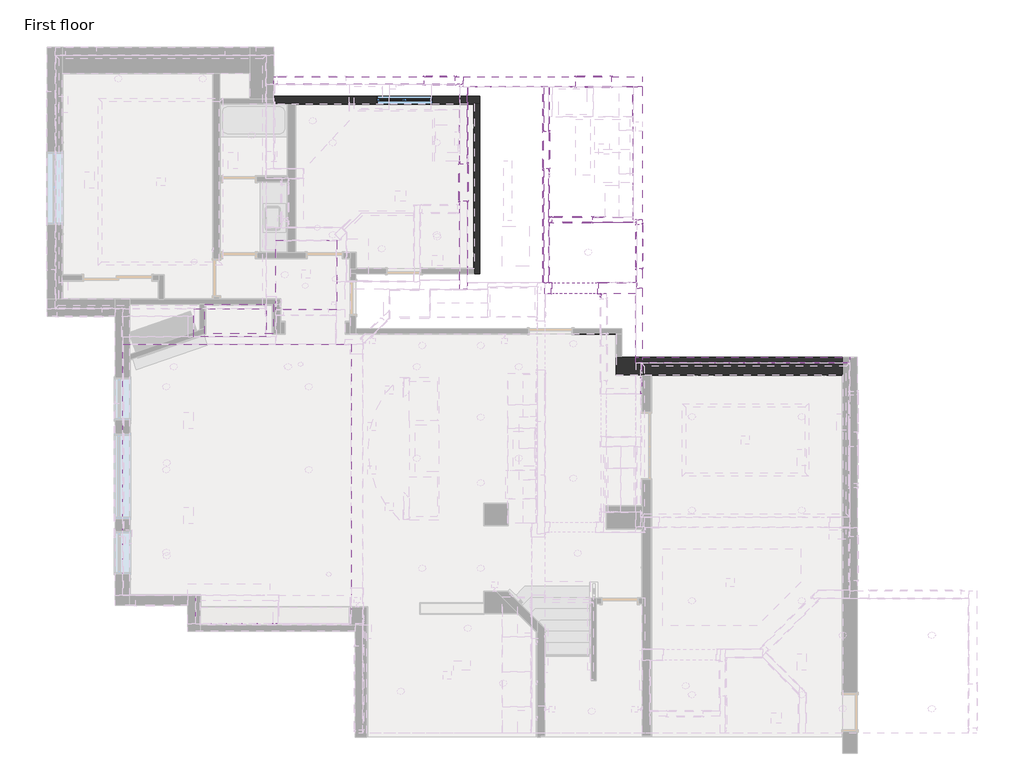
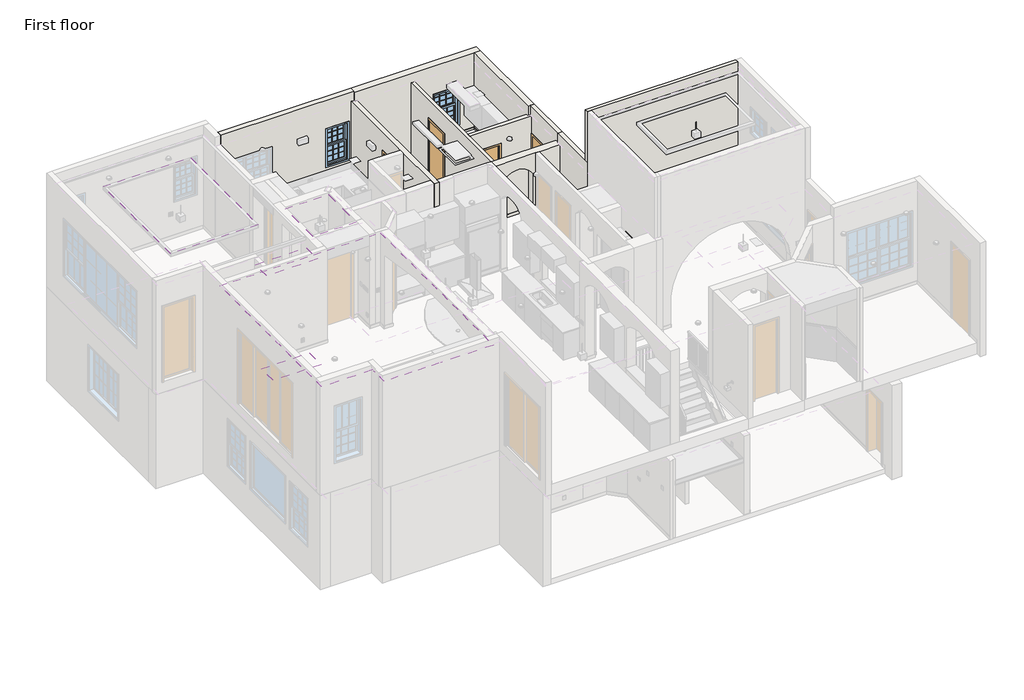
# One storey, part 7 of 14: 41 walls, 5 coverings, 4 doors, 3 windows.
"""IFC4 building model written with IfcOpenShell, lengths in millimetres."""

from ifc_helpers import new_model, si_unit, frame, origin, origin_with_axes, place, context, project, spatial, polyline, circle_curve, outline, extrude, faceted_brep, transform, mapped, element, save
from ifc_brep_helpers import plane_surface, revolved_surface, advanced_brep
from components import door_1276751d, door_c4ebe795, door_87e8dd14, door_a6e0097c, window_c90586ce, window_4b939d1e, window_50703a3a

model = new_model("IFC4")

# Units and contexts
model_context = context("Model", 3, world=origin())
ifc_project = project(units=[si_unit("LENGTHUNIT", "METRE", prefix="MILLI")], contexts=[model_context])

# Site, building, storey
site = spatial("IfcSite", under=ifc_project)
building = spatial("IfcBuilding", under=site)
storey = spatial("IfcBuildingStorey", under=building, Name="First floor", Elevation=0.0)

# Coverings
placement = place(None, origin())
element("IfcCovering", 1, ObjectType="Ceiling_1.5\"", at=placement, inside=storey, context=model_context, shape_type="AdvancedBrep", body=[
    advanced_brep(
    [(-88.9, 8851.9, 6299.2), (-406.4, 8851.9, 6299.2), (-1720.85, 8851.9, 6299.2), (-5029.2, 8851.9, 6299.2), (-5029.2, 3416.3, 6299.2), (-3454.4, 3416.3, 6299.2), (-3454.4, 2806.7, 6299.2), (-88.9, 2806.7, 6299.2), (-4089.4, 8001.5669477, 6299.2), (-4089.4, 7874.5669477, 6299.2), (-4089.4, 6203.5539638, 6299.2), (-4089.4, 6076.5539638, 6299.2), (-4089.4, 4419.6, 6299.2), (-4089.4, 4292.6, 6299.2), (-1001.2559661, 6202.9838752, 6299.2), (-1001.2559661, 6075.9838752, 6299.2), (-1001.2559661, 8001.5669477, 6299.2), (-1001.2559661, 7874.5669477, 6299.2), (-5029.2, 3416.3, 6261.1), (-5029.2, 8851.9, 6261.1), (-88.9, 8851.9, 6261.1), (-88.9, 2806.7, 6261.1), (-1663.7, 2806.7, 6261.1), (-1778.0, 2806.7, 6261.1), (-3454.4, 2806.7, 6261.1), (-3454.4, 3302.0, 6261.1), (-3454.4, 3416.3, 6261.1), (-4089.4, 7874.5669477, 6261.1), (-4089.4, 8001.5669477, 6261.1), (-4089.4, 6076.5539638, 6261.1), (-4089.4, 6203.5539638, 6261.1), (-4089.4, 4292.6, 6261.1), (-4089.4, 4419.6, 6261.1), (-1001.2559661, 6075.9838752, 6261.1), (-1001.2559661, 6202.9838752, 6261.1), (-1001.2559661, 7874.5669477, 6261.1), (-1001.2559661, 8001.5669477, 6261.1)],
    [
        (0, 1),
        (1, 2),
        (2, 3),
        (3, 4),
        (4, 5),
        (5, 6),
        (6, 7),
        (7, 0),
        (8, 9, circle_curve(frame((-4089.4, 7938.0669477, 6299.2), z_axis=(0.0, 0.0, -1.0), x_axis=(0.0, -1.0, 0.0)), 63.5)),
        (9, 8, circle_curve(frame((-4089.4, 7938.0669477, 6299.2), z_axis=(0.0, 0.0, -1.0), x_axis=(0.0, -1.0, 0.0)), 63.5)),
        (10, 11, circle_curve(frame((-4089.4, 6140.0539638, 6299.2), z_axis=(0.0, 0.0, -1.0), x_axis=(0.0, -1.0, 0.0)), 63.5)),
        (11, 10, circle_curve(frame((-4089.4, 6140.0539638, 6299.2), z_axis=(0.0, 0.0, -1.0), x_axis=(0.0, -1.0, 0.0)), 63.5)),
        (12, 13, circle_curve(frame((-4089.4, 4356.1, 6299.2), z_axis=(0.0, 0.0, -1.0), x_axis=(0.0, -1.0, 0.0)), 63.5)),
        (13, 12, circle_curve(frame((-4089.4, 4356.1, 6299.2), z_axis=(0.0, 0.0, -1.0), x_axis=(0.0, -1.0, 0.0)), 63.5)),
        (14, 15, circle_curve(frame((-1001.2559661, 6139.4838752, 6299.2), z_axis=(0.0, 0.0, -1.0), x_axis=(0.0, -1.0, 0.0)), 63.5)),
        (15, 14, circle_curve(frame((-1001.2559661, 6139.4838752, 6299.2), z_axis=(0.0, 0.0, -1.0), x_axis=(0.0, -1.0, 0.0)), 63.5)),
        (16, 17, circle_curve(frame((-1001.2559661, 7938.0669477, 6299.2), z_axis=(0.0, 0.0, -1.0), x_axis=(0.0, -1.0, 0.0)), 63.5)),
        (17, 16, circle_curve(frame((-1001.2559661, 7938.0669477, 6299.2), z_axis=(0.0, 0.0, -1.0), x_axis=(0.0, -1.0, 0.0)), 63.5)),
        (18, 19),
        (19, 20),
        (20, 21),
        (21, 22),
        (22, 23),
        (23, 24),
        (24, 25),
        (25, 26),
        (26, 18),
        (27, 28, circle_curve(frame((-4089.4, 7938.0669477, 6261.1), z_axis=(0.0, 0.0, 1.0), x_axis=(0.0, -1.0, 0.0)), 63.5)),
        (28, 27, circle_curve(frame((-4089.4, 7938.0669477, 6261.1), z_axis=(0.0, 0.0, 1.0), x_axis=(0.0, -1.0, 0.0)), 63.5)),
        (29, 30, circle_curve(frame((-4089.4, 6140.0539638, 6261.1), z_axis=(0.0, 0.0, 1.0), x_axis=(0.0, -1.0, 0.0)), 63.5)),
        (30, 29, circle_curve(frame((-4089.4, 6140.0539638, 6261.1), z_axis=(0.0, 0.0, 1.0), x_axis=(0.0, -1.0, 0.0)), 63.5)),
        (31, 32, circle_curve(frame((-4089.4, 4356.1, 6261.1), z_axis=(0.0, 0.0, 1.0), x_axis=(0.0, -1.0, 0.0)), 63.5)),
        (32, 31, circle_curve(frame((-4089.4, 4356.1, 6261.1), z_axis=(0.0, 0.0, 1.0), x_axis=(0.0, -1.0, 0.0)), 63.5)),
        (33, 34, circle_curve(frame((-1001.2559661, 6139.4838752, 6261.1), z_axis=(0.0, 0.0, 1.0), x_axis=(0.0, -1.0, 0.0)), 63.5)),
        (34, 33, circle_curve(frame((-1001.2559661, 6139.4838752, 6261.1), z_axis=(0.0, 0.0, 1.0), x_axis=(0.0, -1.0, 0.0)), 63.5)),
        (35, 36, circle_curve(frame((-1001.2559661, 7938.0669477, 6261.1), z_axis=(0.0, 0.0, 1.0), x_axis=(0.0, -1.0, 0.0)), 63.5)),
        (36, 35, circle_curve(frame((-1001.2559661, 7938.0669477, 6261.1), z_axis=(0.0, 0.0, 1.0), x_axis=(0.0, -1.0, 0.0)), 63.5)),
        (3, 19),
        (18, 4),
        (26, 5),
        (24, 6),
        (21, 7),
        (20, 0),
        (27, 9),
        (8, 28),
        (29, 11),
        (10, 30),
        (31, 13),
        (12, 32),
        (33, 15),
        (14, 34),
        (35, 17),
        (16, 36),
    ],
    [
        plane_surface(frame((-3454.4, 3416.3, 6299.2), z_axis=(0.0, 0.0, 1.0), x_axis=(1.0, 0.0, 0.0))),
        plane_surface(frame((-3454.4, 3416.3, 6261.1), z_axis=(0.0, 0.0, -1.0), x_axis=(-1.0, 0.0, 0.0))),
        plane_surface(frame((-5029.2, 8851.9, 6299.2), z_axis=(-1.0, 0.0, 0.0), x_axis=(0.0, 0.0, -1.0))),
        plane_surface(frame((-5029.2, 3416.3, 6299.2), z_axis=(0.0, -1.0, 0.0), x_axis=(0.0, 0.0, -1.0))),
        plane_surface(frame((-3454.4, 3416.3, 6299.2), z_axis=(-1.0, 0.0, 0.0), x_axis=(0.0, 0.0, -1.0))),
        plane_surface(frame((-3454.4, 2806.7, 6299.2), z_axis=(0.0, -1.0, 0.0), x_axis=(0.0, 0.0, -1.0))),
        plane_surface(frame((-88.9, 2806.7, 6299.2), z_axis=(1.0, 0.0, 0.0), x_axis=(0.0, 0.0, -1.0))),
        plane_surface(frame((-88.9, 8851.9, 6299.2), z_axis=(0.0, 1.0, 0.0), x_axis=(0.0, 0.0, -1.0))),
        revolved_surface(polyline([(-4089.4, 7874.5669477, 6261.1), (-4089.4, 7874.5669477, 6299.2)]), (-4089.4, 7938.0669477, 6299.2), (0.0, 0.0, -1.0)),
        revolved_surface(polyline([(-4089.4, 6076.5539638, 6261.1), (-4089.4, 6076.5539638, 6299.2)]), (-4089.4, 6140.0539638, 6299.2), (0.0, 0.0, -1.0)),
        revolved_surface(polyline([(-4089.4, 4292.6, 6261.1), (-4089.4, 4292.6, 6299.2)]), (-4089.4, 4356.1, 6299.2), (0.0, 0.0, -1.0)),
        revolved_surface(polyline([(-1001.2559661, 6075.9838752, 6261.1), (-1001.2559661, 6075.9838752, 6299.2)]), (-1001.2559661, 6139.4838752, 6299.2), (0.0, 0.0, -1.0)),
        revolved_surface(polyline([(-1001.2559661, 7874.5669477, 6261.1), (-1001.2559661, 7874.5669477, 6299.2)]), (-1001.2559661, 7938.0669477, 6299.2), (0.0, 0.0, -1.0)),
    ],
    [
        (0, [[1, 2, 3, 4, 5, 6, 7, 8], [9, 10], [11, 12], [13, 14], [15, 16], [17, 18]]),
        (1, [[19, 20, 21, 22, 23, 24, 25, 26, 27], [28, 29], [30, 31], [32, 33], [34, 35], [36, 37]]),
        (2, [[-4, 38, -19, 39]]),
        (3, [[-5, -39, -27, 40]]),
        (4, [[-6, -40, -26, -25, 41]]),
        (5, [[-7, -41, -24, -23, -22, 42]]),
        (6, [[-8, -42, -21, 43]]),
        (7, [[-43, -20, -38, -3, -2, -1]]),
        (8, [[44, -9, 45, -28]]),
        (8, [[-44, -29, -45, -10]]),
        (9, [[46, -11, 47, -30]]),
        (9, [[-46, -31, -47, -12]]),
        (10, [[48, -13, 49, -32]]),
        (10, [[-48, -33, -49, -14]]),
        (11, [[50, -15, 51, -34]]),
        (11, [[-50, -35, -51, -16]]),
        (12, [[52, -17, 53, -36]]),
        (12, [[-52, -37, -53, -18]]),
    ],
),
])
element("IfcCovering", 2, ObjectType="Ceiling_14\"", at=placement, inside=storey, context=model_context, shape_type="SweptSolid", body=[
    extrude(outline(polyline([(-1924.05, 9626.6), (-1924.05, 9017.0), (-3498.85, 9017.0), (-3498.85, 9626.6), (-1924.05, 9626.6)])), frame((0.0, 0.0, 5943.6), z_axis=(0.0, 0.0, 1.0), x_axis=(1.0, 0.0, 0.0)), (0.0, 0.0, 1.0), 355.6),
])
element("IfcCovering", 3, ObjectType="Ceiling_2\"", at=placement, inside=storey, context=model_context, shape_type="SweptSolid", body=[
    extrude(outline(polyline([(-393.7, 11099.8), (-393.7, 9601.2), (-1720.85, 9601.2), (-1720.85, 11099.8), (-393.7, 11099.8)])), frame((0.0, 0.0, 6248.4), z_axis=(0.0, 0.0, 1.0), x_axis=(1.0, 0.0, 0.0)), (0.0, 0.0, 1.0), 50.8),
])
element("IfcCovering", 4, ObjectType="Ceiling_6\"", at=placement, inside=storey, context=model_context, shape_type="SweptSolid", body=[
    extrude(outline(polyline([(-3251.2, 9715.5), (-1778.0, 9715.5), (-1778.0, 9080.5), (-3251.2, 9080.5), (-3251.2, 9715.5)])), frame((0.0, 0.0, 2413.0), z_axis=(0.0, 0.0, 1.0), x_axis=(1.0, 0.0, 0.0)), (0.0, 0.0, 1.0), 152.4),
])
element("IfcCovering", 5, ObjectType="Ceiling_6\"", at=placement, inside=storey, context=model_context, shape_type="SweptSolid", body=[
    extrude(outline(polyline([(-2863.85, 14173.2), (-2863.85, 10566.4), (-5556.25, 10566.4), (-5556.25, 14173.2), (-2863.85, 14173.2)])), frame((0.0, 0.0, 6451.6), z_axis=(0.0, 0.0, 1.0), x_axis=(1.0, 0.0, 0.0)), (0.0, 0.0, 1.0), 152.4),
])

# Doors
door_shape = door_1276751d(model_context)
element("IfcDoor", 6, ObjectType="C_Single Door : 2'-6\" X 8'-0\"", at=placement, inside=storey, context=model_context, shape_type="MappedRepresentation", body=[
    mapped(door_shape, transform((4133.85, 13055.4947939, 3251.2), x_axis=(0.0, -1.0, 0.0), y_axis=(1.0, 0.0, 0.0), z_axis=(0.0, 0.0, 1.0))),
])
door_2_shape = door_c4ebe795(model_context)
element("IfcDoor", 7, ObjectType="C_Single Door : 2'-6\" X 8'-0\"", at=placement, inside=storey, context=model_context, shape_type="MappedRepresentation", body=[
    mapped(door_2_shape, transform((2343.15, 12356.9947939, 3251.2), x_axis=(0.0, 1.0, 0.0), y_axis=(-1.0, 0.0, 0.0), z_axis=(0.0, 0.0, 1.0))),
])
door_3_shape = door_87e8dd14(model_context)
element("IfcDoor", 8, ObjectType="C_Single Door : 2'-8\" X 8'-0\"", at=placement, inside=storey, context=model_context, shape_type="MappedRepresentation", body=[
    mapped(door_3_shape, transform((4699.0, 11550.5447939, 3251.2), x_axis=(1.0, 0.0, 0.0), y_axis=(0.0, 1.0, 0.0), z_axis=(0.0, 0.0, 1.0))),
])
door_4_shape = door_a6e0097c(model_context)
element("IfcDoor", 9, ObjectType="C_Single Door : 3'-0\" X 8'-0\"", at=placement, inside=storey, context=model_context, shape_type="MappedRepresentation", body=[
    mapped(door_4_shape, transform((6153.15, 10972.6947939, 3251.2), x_axis=(0.0, -1.0, 0.0), y_axis=(1.0, 0.0, 0.0), z_axis=(0.0, 0.0, 1.0))),
])

# Walls
element("IfcWall", 10, ObjectType="Wall Border_T1", at=placement, inside=storey, context=model_context, shape_type="Brep", body=[
    faceted_brep([(6400.8, 8178.8, 0.0), (6413.5, 8178.8, 0.0), (10541.0, 8178.8, 0.0), (10553.7, 8178.8, 0.0), (10553.7, 8178.8, 101.6), (10541.0, 8178.8, 101.6), (6413.5, 8178.8, 101.6), (6400.8, 8178.8, 101.6), (6400.8, 8191.5, 0.0), (6400.8, 8191.5, 101.6), (10553.7, 8191.5, 101.6), (10553.7, 8191.5, 0.0)], [[[0, 1, 2, 3, 4, 5, 6, 7]], [[8, 9, 10, 11]], [[3, 2, 1, 0, 8, 11]], [[7, 6, 5, 4, 10, 9]], [[4, 3, 11, 10]], [[0, 7, 9, 8]]]),
])
element("IfcWall", 11, ObjectType="Wall Border_T1", at=placement, inside=storey, context=model_context, shape_type="SweptSolid", body=[
    extrude(outline(polyline([(5638.8, 9067.8), (4737.1, 9067.8), (4737.1, 9080.5), (5638.8, 9080.5), (5638.8, 9067.8)])), origin_with_axes(), (0.0, 0.0, 1.0), 101.6),
])
element("IfcWall", 12, ObjectType="Wall Border_T1", at=placement, inside=storey, context=model_context, shape_type="Brep", body=[
    faceted_brep([(2578.1, 14046.2, 0.0), (2578.1, 14046.2, 101.6), (2565.4, 14046.2, 101.6), (-1282.7, 14046.2, 101.6), (-1282.7, 14046.2, 0.0), (2565.4, 14046.2, 0.0), (2578.1, 14058.9, 101.6), (2578.1, 14058.9, 0.0), (-1282.7, 14058.9, 0.0), (-1282.7, 14058.9, 101.6)], [[[0, 1, 2, 3, 4, 5]], [[6, 7, 8, 9]], [[7, 0, 5, 4, 8]], [[1, 0, 7, 6]], [[1, 6, 9, 3, 2]], [[4, 3, 9, 8]]]),
])
element("IfcWall", 13, ObjectType="Wall Border_T1", at=placement, inside=storey, context=model_context, shape_type="SweptSolid", body=[
    extrude(outline(polyline([(2578.1, 10502.9), (2565.4, 10502.9), (2565.4, 14046.2), (2578.1, 14046.2), (2578.1, 10502.9)])), origin_with_axes(), (0.0, 0.0, 1.0), 101.6),
])
element("IfcWall", 14, ObjectType="Wall Border_T1", at=placement, inside=storey, context=model_context, shape_type="Brep", body=[
    faceted_brep([(6083.3, 10464.6947939, 3251.2), (6083.3, 10197.9947939, 3251.2), (6083.3, 10185.2947939, 3251.2), (6083.3, 10185.2947939, 3352.8), (6083.3, 10197.9947939, 3352.8), (6083.3, 10464.6947939, 3352.8), (6096.0, 10464.6947939, 3251.2), (6096.0, 10464.6947939, 3352.8), (6096.0, 10185.2947939, 3352.8), (6096.0, 10185.2947939, 3251.2)], [[[0, 1, 2, 3, 4, 5]], [[6, 7, 8, 9]], [[2, 1, 0, 6, 9]], [[5, 4, 3, 8, 7]], [[0, 5, 7, 6]], [[3, 2, 9, 8]]]),
])
element("IfcWall", 15, ObjectType="Wall Border_T1", at=placement, inside=storey, context=model_context, shape_type="Brep", body=[
    faceted_brep([(6083.3, 10197.9947939, 3251.2), (5245.1, 10197.9947939, 3251.2), (5245.1, 10197.9947939, 3352.8), (6083.3, 10197.9947939, 3352.8), (6083.3, 10185.2947939, 3251.2), (6083.3, 10185.2947939, 3352.8), (5257.8, 10185.2947939, 3352.8), (5245.1, 10185.2947939, 3352.8), (5245.1, 10185.2947939, 3251.2), (5257.8, 10185.2947939, 3251.2)], [[[0, 1, 2, 3]], [[4, 5, 6, 7, 8, 9]], [[1, 0, 4, 9, 8]], [[3, 2, 7, 6, 5]], [[0, 3, 5, 4]], [[2, 1, 8, 7]]]),
])
element("IfcWall", 16, ObjectType="Wall Border_T1", at=placement, inside=storey, context=model_context, shape_type="Brep", body=[
    faceted_brep([(5245.1, 10185.2947939, 3251.2), (5245.1, 9931.2947939, 3251.2), (5245.1, 9931.2947939, 3352.8), (5245.1, 10185.2947939, 3352.8), (5257.8, 10185.2947939, 3251.2), (5257.8, 10185.2947939, 3352.8), (5257.8, 9943.9947939, 3352.8), (5257.8, 9931.2947939, 3352.8), (5257.8, 9931.2947939, 3251.2), (5257.8, 9943.9947939, 3251.2)], [[[0, 1, 2, 3]], [[4, 5, 6, 7, 8, 9]], [[1, 0, 4, 9, 8]], [[3, 2, 7, 6, 5]], [[0, 3, 5, 4]], [[2, 1, 8, 7]]]),
])
element("IfcWall", 17, ObjectType="Wall Border_T1", at=placement, inside=storey, context=model_context, shape_type="Brep", body=[
    faceted_brep([(5257.8, 9931.2947939, 3251.2), (5308.6, 9931.2947939, 3251.2), (5321.3, 9931.2947939, 3251.2), (5321.3, 9931.2947939, 3352.8), (5308.6, 9931.2947939, 3352.8), (5257.8, 9931.2947939, 3352.8), (5257.8, 9943.9947939, 3251.2), (5257.8, 9943.9947939, 3352.8), (5321.3, 9943.9947939, 3352.8), (5321.3, 9943.9947939, 3251.2)], [[[0, 1, 2, 3, 4, 5]], [[6, 7, 8, 9]], [[2, 1, 0, 6, 9]], [[5, 4, 3, 8, 7]], [[0, 5, 7, 6]], [[3, 2, 9, 8]]]),
])
element("IfcWall", 18, ObjectType="Wall Border_T1", at=placement, inside=storey, context=model_context, shape_type="SweptSolid", body=[
    extrude(outline(polyline([(5308.6, 9867.7947939), (5308.6, 9931.2947939), (5321.3, 9931.2947939), (5321.3, 9867.7947939), (5308.6, 9867.7947939)])), frame((0.0, 0.0, 3251.2), z_axis=(0.0, 0.0, 1.0), x_axis=(1.0, 0.0, 0.0)), (0.0, 0.0, 1.0), 101.6),
])
element("IfcWall", 19, ObjectType="Wall Border_T1", at=placement, inside=storey, context=model_context, shape_type="Brep", body=[
    faceted_brep([(4241.8, 11493.3947939, 3251.2), (4191.0, 11493.3947939, 3251.2), (4191.0, 11493.3947939, 3352.8), (4241.8, 11493.3947939, 3352.8), (4241.8, 11480.6947939, 3251.2), (4241.8, 11480.6947939, 3352.8), (4203.7, 11480.6947939, 3352.8), (4191.0, 11480.6947939, 3352.8), (4191.0, 11480.6947939, 3251.2), (4203.7, 11480.6947939, 3251.2)], [[[0, 1, 2, 3]], [[4, 5, 6, 7, 8, 9]], [[1, 0, 4, 9, 8]], [[3, 2, 7, 6, 5]], [[0, 3, 5, 4]], [[2, 1, 8, 7]]]),
])
element("IfcWall", 20, ObjectType="Wall Border_T1", at=placement, inside=storey, context=model_context, shape_type="Brep", body=[
    faceted_brep([(4191.0, 11480.6947939, 3251.2), (4191.0, 10185.2947939, 3251.2), (4191.0, 10185.2947939, 3352.8), (4191.0, 11480.6947939, 3352.8), (4203.7, 11480.6947939, 3251.2), (4203.7, 11480.6947939, 3352.8), (4203.7, 10197.9947939, 3352.8), (4203.7, 10185.2947939, 3352.8), (4203.7, 10185.2947939, 3251.2), (4203.7, 10197.9947939, 3251.2)], [[[0, 1, 2, 3]], [[4, 5, 6, 7, 8, 9]], [[1, 0, 4, 9, 8]], [[3, 2, 7, 6, 5]], [[0, 3, 5, 4]], [[2, 1, 8, 7]]]),
])
element("IfcWall", 21, ObjectType="Wall Border_T1", at=placement, inside=storey, context=model_context, shape_type="Brep", body=[
    faceted_brep([(4203.7, 10185.2947939, 3251.2), (4241.8, 10185.2947939, 3251.2), (4254.5, 10185.2947939, 3251.2), (4254.5, 10185.2947939, 3352.8), (4241.8, 10185.2947939, 3352.8), (4203.7, 10185.2947939, 3352.8), (4203.7, 10197.9947939, 3251.2), (4203.7, 10197.9947939, 3352.8), (4254.5, 10197.9947939, 3352.8), (4254.5, 10197.9947939, 3251.2)], [[[0, 1, 2, 3, 4, 5]], [[6, 7, 8, 9]], [[2, 1, 0, 6, 9]], [[5, 4, 3, 8, 7]], [[0, 5, 7, 6]], [[3, 2, 9, 8]]]),
])
element("IfcWall", 22, ObjectType="Wall Border_T1", at=placement, inside=storey, context=model_context, shape_type="Brep", body=[
    faceted_brep([(4241.8, 10185.2947939, 3251.2), (4241.8, 9943.9947939, 3251.2), (4241.8, 9931.2947939, 3251.2), (4241.8, 9931.2947939, 3352.8), (4241.8, 9943.9947939, 3352.8), (4241.8, 10185.2947939, 3352.8), (4254.5, 10185.2947939, 3251.2), (4254.5, 10185.2947939, 3352.8), (4254.5, 9931.2947939, 3352.8), (4254.5, 9931.2947939, 3251.2)], [[[0, 1, 2, 3, 4, 5]], [[6, 7, 8, 9]], [[2, 1, 0, 6, 9]], [[5, 4, 3, 8, 7]], [[0, 5, 7, 6]], [[3, 2, 9, 8]]]),
])
element("IfcWall", 23, ObjectType="Wall Border_T1", at=placement, inside=storey, context=model_context, shape_type="SweptSolid", body=[
    extrude(outline(polyline([(2260.6, 12814.1947939), (2260.6, 12788.7947939), (2247.9, 12788.7947939), (2247.9, 12814.1947939), (2260.6, 12814.1947939)])), frame((0.0, 0.0, 3251.2), z_axis=(0.0, 0.0, 1.0), x_axis=(1.0, 0.0, 0.0)), (0.0, 0.0, 1.0), 101.6),
])
element("IfcWall", 24, ObjectType="Wall Border_T1", at=placement, inside=storey, context=model_context, shape_type="SweptSolid", body=[
    extrude(outline(polyline([(4076.7, 12623.6947939), (4076.7, 10198.1), (4064.0, 10198.1), (4064.0, 12623.6947939), (4076.7, 12623.6947939)])), frame((0.0, 0.0, 3251.2), z_axis=(0.0, 0.0, 1.0), x_axis=(1.0, 0.0, 0.0)), (0.0, 0.0, 1.0), 101.6),
])
element("IfcWall", 25, ObjectType="Wall Border_T1", at=placement, inside=storey, context=model_context, shape_type="Brep", body=[
    faceted_brep([(4076.7, 13487.2947939, 3251.2), (4076.7, 14427.0947939, 3251.2), (4076.7, 14427.0947939, 3352.8), (4076.7, 13487.2947939, 3352.8), (4064.0, 13487.2947939, 3251.2), (4064.0, 13487.2947939, 3352.8), (4064.0, 14414.3947939, 3352.8), (4064.0, 14427.0947939, 3352.8), (4064.0, 14427.0947939, 3251.2), (4064.0, 14414.3947939, 3251.2)], [[[0, 1, 2, 3]], [[4, 5, 6, 7, 8, 9]], [[1, 0, 4, 9, 8]], [[3, 2, 7, 6, 5]], [[0, 3, 5, 4]], [[2, 1, 8, 7]]]),
])
element("IfcWall", 26, ObjectType="Wall Border_T1", at=placement, inside=storey, context=model_context, shape_type="SweptSolid", body=[
    extrude(outline(polyline([(2438.4, 14427.0947939), (4064.0, 14427.0947939), (4064.0, 14414.3947939), (2438.4, 14414.3947939), (2438.4, 14427.0947939)])), frame((0.0, 0.0, 3251.2), z_axis=(0.0, 0.0, 1.0), x_axis=(1.0, 0.0, 0.0)), (0.0, 0.0, 1.0), 101.6),
])
element("IfcWall", 27, ObjectType="Wall Border_T1", at=placement, inside=storey, context=model_context, shape_type="Brep", body=[
    faceted_brep([(2425.7, 14427.0947939, 3251.2), (2425.7, 12788.7947939, 3251.2), (2425.7, 12788.7947939, 3352.8), (2425.7, 14427.0947939, 3352.8), (2438.4, 14427.0947939, 3251.2), (2438.4, 14427.0947939, 3352.8), (2438.4, 14414.3947939, 3352.8), (2438.4, 12788.7947939, 3352.8), (2438.4, 12788.7947939, 3251.2), (2438.4, 14414.3947939, 3251.2)], [[[0, 1, 2, 3]], [[4, 5, 6, 7, 8, 9]], [[1, 0, 4, 9, 8]], [[2, 1, 8, 7]], [[3, 2, 7, 6, 5]], [[0, 3, 5, 4]]]),
])
element("IfcWall", 28, ObjectType="Wall Border_T1", at=placement, inside=storey, context=model_context, shape_type="SweptSolid", body=[
    extrude(outline(polyline([(4203.7, 13773.0447939), (4203.7, 13487.2947939), (4191.0, 13487.2947939), (4191.0, 13773.0447939), (4203.7, 13773.0447939)])), frame((0.0, 0.0, 3251.2), z_axis=(0.0, 0.0, 1.0), x_axis=(1.0, 0.0, 0.0)), (0.0, 0.0, 1.0), 101.6),
])
element("IfcWall", 29, ObjectType="Wall Border_T1", at=placement, inside=storey, context=model_context, shape_type="Brep", body=[
    faceted_brep([(4191.0, 12623.6947939, 3251.2), (4191.0, 11607.6947939, 3251.2), (4191.0, 11607.6947939, 3352.8), (4191.0, 12623.6947939, 3352.8), (4203.7, 12623.6947939, 3251.2), (4203.7, 12623.6947939, 3352.8), (4203.7, 11620.3947939, 3352.8), (4203.7, 11607.6947939, 3352.8), (4203.7, 11607.6947939, 3251.2), (4203.7, 11620.3947939, 3251.2)], [[[0, 1, 2, 3]], [[4, 5, 6, 7, 8, 9]], [[1, 0, 4, 9, 8]], [[3, 2, 7, 6, 5]], [[0, 3, 5, 4]], [[2, 1, 8, 7]]]),
])
element("IfcWall", 30, ObjectType="Wall Border_T1", at=placement, inside=storey, context=model_context, shape_type="SweptSolid", body=[
    extrude(outline(polyline([(4241.8, 11607.6947939), (4203.7, 11607.6947939), (4203.7, 11620.3947939), (4241.8, 11620.3947939), (4241.8, 11607.6947939)])), frame((0.0, 0.0, 3251.2), z_axis=(0.0, 0.0, 1.0), x_axis=(1.0, 0.0, 0.0)), (0.0, 0.0, 1.0), 101.6),
])
element("IfcWall", 31, ObjectType="Wall Border_T1", at=placement, inside=storey, context=model_context, shape_type="SweptSolid", body=[
    extrude(outline(polyline([(5416.55, 11607.6947939), (5156.2, 11607.6947939), (5156.2, 11620.3947939), (5416.55, 11620.3947939), (5416.55, 11607.6947939)])), frame((0.0, 0.0, 3251.2), z_axis=(0.0, 0.0, 1.0), x_axis=(1.0, 0.0, 0.0)), (0.0, 0.0, 1.0), 101.6),
])
element("IfcWall", 32, ObjectType="Wall Border_T1", at=placement, inside=storey, context=model_context, shape_type="SweptSolid", body=[
    extrude(outline(polyline([(6096.0, 11480.6947939), (5156.2, 11480.6947939), (5156.2, 11493.3947939), (6096.0, 11493.3947939), (6096.0, 11480.6947939)])), frame((0.0, 0.0, 3251.2), z_axis=(0.0, 0.0, 1.0), x_axis=(1.0, 0.0, 0.0)), (0.0, 0.0, 1.0), 101.6),
])
element("IfcWall", 33, ObjectType="Wall Border_T1", at=placement, inside=storey, context=model_context, shape_type="Brep", body=[
    faceted_brep([(6197.5999991, 7784.9947939, 3251.2), (6197.5999991, 8445.5, 3251.2), (6197.5999991, 8458.2, 3251.2), (6197.5999991, 8458.2, 3352.8), (6197.5999991, 8445.5, 3352.8), (6197.5999991, 7784.9947939, 3352.8), (6184.8999991, 7784.9947939, 3251.2), (6184.8999991, 7784.9947939, 3352.8), (6184.8999991, 8458.2, 3352.8), (6184.8999991, 8458.2, 3251.2)], [[[0, 1, 2, 3, 4, 5]], [[6, 7, 8, 9]], [[2, 1, 0, 6, 9]], [[5, 4, 3, 8, 7]], [[3, 2, 9, 8]], [[0, 5, 7, 6]]]),
])
element("IfcWall", 34, ObjectType="Wall Border_T1", at=placement, inside=storey, context=model_context, shape_type="Brep", body=[
    faceted_brep([(6197.5999991, 8445.5, 3251.2), (10693.4, 8445.5, 3251.2), (10706.1, 8445.5, 3251.2), (10706.1, 8445.5, 3352.8), (10693.4, 8445.5, 3352.8), (6197.5999991, 8445.5, 3352.8), (6197.5999991, 8458.2, 3251.2), (6197.5999991, 8458.2, 3352.8), (10706.1, 8458.2, 3352.8), (10706.1, 8458.2, 3251.2)], [[[0, 1, 2, 3, 4, 5]], [[6, 7, 8, 9]], [[2, 1, 0, 6, 9]], [[5, 4, 3, 8, 7]], [[3, 2, 9, 8]], [[0, 5, 7, 6]]]),
])
element("IfcWall", 35, ObjectType="Wall Border_T1", at=placement, inside=storey, context=model_context, shape_type="Brep", body=[
    faceted_brep([(4203.7, 13766.6947939, 4114.8), (4203.7, 14414.3947939, 4114.8), (4203.7, 14427.0947939, 4114.8), (4203.7, 14427.0947939, 4191.0), (4203.7, 14414.3947939, 4191.0), (4203.7, 13766.6947939, 4191.0), (4191.0, 13766.6947939, 4114.8), (4191.0, 13766.6947939, 4191.0), (4191.0, 14427.0947939, 4191.0), (4191.0, 14427.0947939, 4114.8)], [[[0, 1, 2, 3, 4, 5]], [[6, 7, 8, 9]], [[2, 1, 0, 6, 9]], [[5, 4, 3, 8, 7]], [[0, 5, 7, 6]], [[3, 2, 9, 8]]]),
])
element("IfcWall", 36, ObjectType="Wall Border_T1", at=placement, inside=storey, context=model_context, shape_type="Brep", body=[
    faceted_brep([(4203.7, 14414.3947939, 4114.8), (6007.1, 14414.3947939, 4114.8), (6019.8, 14414.3947939, 4114.8), (6019.8, 14414.3947939, 4191.0), (6007.1, 14414.3947939, 4191.0), (4203.7, 14414.3947939, 4191.0), (4203.7, 14427.0947939, 4114.8), (4203.7, 14427.0947939, 4191.0), (6019.8, 14427.0947939, 4191.0), (6019.8, 14427.0947939, 4114.8)], [[[0, 1, 2, 3, 4, 5]], [[6, 7, 8, 9]], [[2, 1, 0, 6, 9]], [[5, 4, 3, 8, 7]], [[0, 5, 7, 6]], [[3, 2, 9, 8]]]),
])
element("IfcWall", 37, ObjectType="Wall Border_T1", at=placement, inside=storey, context=model_context, shape_type="SweptSolid", body=[
    extrude(outline(polyline([(6007.1, 13766.6947939), (6007.1, 14414.3947939), (6019.8, 14414.3947939), (6019.8, 13766.6947939), (6007.1, 13766.6947939)])), frame((0.0, 0.0, 4114.8), z_axis=(0.0, 0.0, 1.0), x_axis=(1.0, 0.0, 0.0)), (0.0, 0.0, 1.0), 76.2),
])
element("IfcWall", 38, ObjectType="Wall_1'3\"", at=placement, inside=storey, context=model_context, shape_type="Brep", body=[
    faceted_brep([(10553.7, 8572.5, -152.4), (5765.8, 8572.5, -152.4), (5651.5, 8572.5, -152.4), (5651.5, 8572.5, 2908.3), (5765.8, 8572.5, 2908.3), (10553.7, 8572.5, 2908.3), (10553.7, 8191.5, -152.4), (10553.7, 8191.5, 2908.3), (5651.5, 8191.5, 2908.3), (5651.5, 8191.5, -152.4)], [[[0, 1, 2, 3, 4, 5]], [[6, 7, 8, 9]], [[2, 1, 0, 6, 9]], [[5, 4, 3, 8, 7]], [[0, 5, 7, 6]], [[3, 2, 9, 8]]]),
])
element("IfcWall", 39, ObjectType="Wall_4.5\"", at=placement, inside=storey, context=model_context, shape_type="Brep", body=[
    faceted_brep([(6096.0, 11550.5447939, 6604.0), (6096.0, 11550.5447939, 6299.2), (6096.0, 11550.5447939, 2908.3), (6096.0, 11493.3947939, 2908.3), (6096.0, 10185.2947939, 2908.3), (6096.0, 10064.6447939, 2908.3), (6096.0, 10064.6447939, 6299.2), (6096.0, 10064.6447939, 6604.0), (6096.0, 11455.2947939, 3251.2), (6096.0, 11455.2947939, 5715.0), (6096.0, 10490.0947939, 5715.0), (6096.0, 10490.0947939, 3251.2), (6210.3, 11550.5447939, 2908.3), (6210.3, 11550.5447939, 6604.0), (6210.3, 10064.6447939, 6604.0), (6210.3, 10064.6447939, 2908.3), (6210.3, 11455.2947939, 3251.2), (6210.3, 10490.0947939, 3251.2), (6210.3, 10490.0947939, 5715.0), (6210.3, 11455.2947939, 5715.0)], [[[0, 1, 2, 3, 4, 5, 6, 7], [8, 9, 10, 11]], [[12, 13, 14, 15], [16, 17, 18, 19]], [[5, 4, 3, 2, 12, 15]], [[0, 7, 14, 13]], [[0, 13, 12, 2, 1]], [[5, 15, 14, 7, 6]], [[17, 16, 8, 11]], [[18, 17, 11, 10]], [[19, 18, 10, 9]], [[16, 19, 9, 8]]]),
])
element("IfcWall", 40, ObjectType="Wall_4.5\"", at=placement, inside=storey, context=model_context, shape_type="Brep", body=[
    faceted_brep([(10706.1, 8572.5, 2908.3), (6210.3, 8572.5, 2908.3), (6210.3, 8572.5, 6604.0), (6070.5999991, 8572.5, 6604.0), (6070.5999991, 8572.5, 8280.4), (10706.1, 8572.5, 8280.4), (10706.1, 8458.2, 2908.3), (10706.1, 8458.2, 8280.4), (6184.8999991, 8458.2, 8280.4), (6070.5999991, 8458.2, 8280.4), (6070.5999991, 8458.2, 6604.0), (6210.3, 8458.2, 6604.0), (6210.3, 8458.2, 2908.3)], [[[0, 1, 2, 3, 4, 5]], [[6, 7, 8, 9, 10, 11, 12]], [[1, 0, 6, 12]], [[5, 4, 9, 8, 7]], [[0, 5, 7, 6]], [[10, 3, 2, 11]], [[1, 12, 11, 2]], [[4, 3, 10, 9]]]),
])
element("IfcWall", 41, ObjectType="Wall_4.5\"", at=placement, inside=storey, context=model_context, shape_type="Brep", body=[
    faceted_brep([(4076.7, 12649.0947939, 5715.0), (4076.7, 12649.0947939, 3251.2), (4076.7, 10185.2947939, 3251.2), (4076.7, 10185.2947939, 6299.2), (4076.7, 14427.0947939, 6299.2), (4076.7, 14427.0947939, 3251.2), (4076.7, 13461.8947939, 3251.2), (4076.7, 13461.8947939, 5715.0), (4191.0, 10185.2947939, 3251.2), (4191.0, 11493.3947939, 3251.2), (4191.0, 11607.6947939, 3251.2), (4191.0, 12649.0947939, 3251.2), (4191.0, 12649.0947939, 5715.0), (4191.0, 13461.8947939, 5715.0), (4191.0, 13461.8947939, 3251.2), (4191.0, 14427.0947939, 3251.2), (4191.0, 14427.0947939, 6299.2), (4191.0, 11607.6947939, 6299.2), (4191.0, 11493.3947939, 6299.2), (4191.0, 10185.2947939, 6299.2), (4102.1, 10185.2947939, 3251.2), (4102.1, 10185.2947939, 6299.2)], [[[0, 1, 2, 3, 4, 5, 6, 7]], [[8, 9, 10, 11, 12, 13, 14, 15, 16, 17, 18, 19]], [[6, 5, 15, 14]], [[2, 1, 11, 10, 9, 8, 20]], [[4, 3, 21, 19, 18, 17, 16]], [[5, 4, 16, 15]], [[3, 2, 20, 8, 19, 21]], [[12, 11, 1, 0]], [[13, 12, 0, 7]], [[14, 13, 7, 6]]]),
])
element("IfcWall", 42, ObjectType="Wall_4.5\"", at=placement, inside=storey, context=model_context, shape_type="Brep", body=[
    faceted_brep([(4191.0, 11607.6947939, 6299.2), (6019.8, 11607.6947939, 6299.2), (6019.8, 11607.6947939, 3251.2), (5130.8, 11607.6947939, 3251.2), (5130.8, 11607.6947939, 5715.0), (4267.2, 11607.6947939, 5715.0), (4267.2, 11607.6947939, 3251.2), (4203.7, 11607.6947939, 3251.2), (4191.0, 11607.6947939, 3251.2), (4191.0, 11607.6947939, 3352.8), (6096.0, 11493.3947939, 6299.2), (4191.0, 11493.3947939, 6299.2), (4191.0, 11493.3947939, 3251.2), (4267.2, 11493.3947939, 3251.2), (4267.2, 11493.3947939, 5715.0), (5130.8, 11493.3947939, 5715.0), (5130.8, 11493.3947939, 3251.2), (6019.8, 11493.3947939, 3251.2), (6019.8, 11493.3947939, 2908.3), (6096.0, 11493.3947939, 2908.3), (6096.0, 11493.3947939, 3251.2), (6019.8, 11550.5447939, 2908.3), (6096.0, 11550.5447939, 2908.3), (6096.0, 11550.5447939, 6299.2), (6019.8, 11550.5447939, 6299.2), (6019.8, 11550.5447939, 3251.2)], [[[0, 1, 2, 3, 4, 5, 6, 7, 8, 9]], [[10, 11, 12, 13, 14, 15, 16, 17, 18, 19, 20]], [[21, 22, 19, 18]], [[1, 0, 11, 10, 23, 24]], [[1, 24, 25, 2]], [[24, 23, 22, 21, 25]], [[23, 10, 20, 19, 22]], [[11, 0, 9, 8, 12]], [[8, 7, 6, 13, 12]], [[25, 17, 16, 3, 2]], [[17, 25, 21, 18]], [[4, 3, 16, 15]], [[5, 4, 15, 14]], [[6, 5, 14, 13]]]),
])
element("IfcWall", 43, ObjectType="Wall_4.5\"", at=placement, inside=storey, context=model_context, shape_type="Brep", body=[
    faceted_brep([(2692.4, 10375.9, -152.4), (2692.4, 14058.9, -152.4), (2692.4, 14058.9, 2908.3), (2692.4, 10375.9, 2908.3), (2578.1, 10375.9, -152.4), (2578.1, 10375.9, 2908.3), (2578.1, 10490.2, 2908.3), (2578.1, 14058.9, 2908.3), (2578.1, 14058.9, -152.4), (2578.1, 10490.2, -152.4)], [[[0, 1, 2, 3]], [[4, 5, 6, 7, 8, 9]], [[1, 0, 4, 9, 8]], [[3, 2, 7, 6, 5]], [[2, 1, 8, 7]], [[0, 3, 5, 4]]]),
])
element("IfcWall", 44, ObjectType="Wall_5.5\"", at=placement, inside=storey, context=model_context, shape_type="Brep", body=[
    faceted_brep([(6070.6, 10064.6447939, 6604.0), (6070.6, 10064.6447939, 6299.2), (6070.6, 10064.6447939, 3251.2), (6070.6, 10064.6447939, 2908.3), (6070.6, 8458.2, 2908.3), (6070.6, 8458.2, 3251.2), (6070.6, 8458.2, 6604.0), (6210.3, 10064.6447939, 2908.3), (6210.3, 10064.6447939, 6604.0), (6210.3, 8572.5, 6604.0), (6210.3, 8458.2, 6604.0), (6210.3, 8458.2, 2908.3), (6210.3, 8572.5, 2908.3), (6096.0, 10064.6447939, 2908.3), (6096.0, 10064.6447939, 6604.0)], [[[0, 1, 2, 3, 4, 5, 6]], [[7, 8, 9, 10, 11, 12]], [[4, 3, 13, 7, 12, 11]], [[0, 6, 10, 9, 8, 14]], [[0, 14, 8, 7, 13, 3, 2, 1]], [[4, 11, 10, 6, 5]]]),
])
element("IfcWall", 45, ObjectType="Wall_6.5\"", at=placement, inside=storey, context=model_context, shape_type="Brep", body=[
    faceted_brep([(-1758.95, 14477.8947939, 2908.3), (2260.6, 14477.8947939, 2908.3), (2343.15, 14477.8947939, 2908.3), (2343.15, 14477.8947939, 6299.2), (2343.15, 14477.8947939, 6604.0), (-1758.95, 14477.8947939, 6604.0), (1498.6, 14477.8947939, 5664.2), (2159.0, 14477.8947939, 5664.2), (2159.0, 14477.8947939, 4445.0), (1498.6, 14477.8947939, 4445.0), (-1676.4, 14477.8947939, 5664.2), (-203.2, 14477.8947939, 5664.2), (-203.2, 14477.8947939, 4445.0), (-1676.4, 14477.8947939, 4445.0), (2343.15, 14642.9947939, 2908.3), (-1758.95, 14642.9947939, 2908.3), (-1758.95, 14642.9947939, 6604.0), (2343.15, 14642.9947939, 6604.0), (2159.0, 14642.9947939, 5664.2), (1498.6, 14642.9947939, 5664.2), (1498.6, 14642.9947939, 4445.0), (2159.0, 14642.9947939, 4445.0), (-203.2, 14642.9947939, 5664.2), (-1676.4, 14642.9947939, 5664.2), (-1676.4, 14642.9947939, 4445.0), (-203.2, 14642.9947939, 4445.0)], [[[0, 1, 2, 3, 4, 5], [6, 7, 8, 9], [10, 11, 12, 13]], [[14, 15, 16, 17], [18, 19, 20, 21], [22, 23, 24, 25]], [[2, 1, 0, 15, 14]], [[5, 4, 17, 16]], [[2, 14, 17, 4, 3]], [[5, 16, 15, 0]], [[18, 7, 6, 19]], [[19, 6, 9, 20]], [[20, 9, 8, 21]], [[7, 18, 21, 8]], [[23, 22, 11, 10]], [[24, 23, 10, 13]], [[25, 24, 13, 12]], [[22, 25, 12, 11]]]),
])
element("IfcWall", 46, ObjectType="Wall_6.5\"", at=placement, inside=storey, context=model_context, shape_type="Brep", body=[
    faceted_brep([(2425.7, 14427.0947939, 6299.2), (2425.7, 10185.4, 6299.2), (2425.7, 10045.7, 6299.2), (2425.7, 10045.7, 3251.2), (2425.7, 10185.4, 3251.2), (2425.7, 11950.5947939, 3251.2), (2425.7, 11950.5947939, 5715.0), (2425.7, 12763.3947939, 5715.0), (2425.7, 12763.3947939, 3251.2), (2425.7, 14427.0947939, 3251.2), (2260.6, 10045.7, 6299.2), (2260.6, 10236.2, 6299.2), (2260.6, 11696.5947939, 6299.2), (2260.6, 11861.6947939, 6299.2), (2260.6, 14477.8947939, 6299.2), (2260.6, 14477.8947939, 3251.2), (2260.6, 14477.8947939, 2908.3), (2260.6, 14427.0947939, 2908.3), (2260.6, 14427.0947939, 3251.2), (2260.6, 12763.3947939, 3251.2), (2260.6, 12763.3947939, 5715.0), (2260.6, 11950.5947939, 5715.0), (2260.6, 11950.5947939, 3251.2), (2260.6, 11861.6947939, 3251.2), (2260.6, 11696.5947939, 3251.2), (2260.6, 10236.2, 3251.2), (2260.6, 10045.7, 3251.2), (2343.15, 14477.8947939, 2908.3), (2343.15, 14427.0947939, 2908.3), (2343.15, 14427.0947939, 6299.2), (2343.15, 14477.8947939, 6299.2), (2343.15, 14427.0947939, 3251.2)], [[[0, 1, 2, 3, 4, 5, 6, 7, 8, 9]], [[10, 11, 12, 13, 14, 15, 16, 17, 18, 19, 20, 21, 22, 23, 24, 25, 26]], [[16, 27, 28, 17]], [[2, 1, 0, 29, 30, 14, 13, 12, 11, 10]], [[2, 10, 26, 3]], [[29, 0, 9, 31]], [[28, 27, 30, 29, 31]], [[27, 16, 15, 14, 30]], [[5, 4, 3, 26, 25, 24, 23, 22]], [[18, 31, 9, 8, 19]], [[31, 18, 17, 28]], [[20, 19, 8, 7]], [[21, 20, 7, 6]], [[22, 21, 6, 5]]]),
])
element("IfcWall", 47, ObjectType="Wall_6.5\"", at=placement, inside=storey, context=model_context, shape_type="Brep", body=[
    faceted_brep([(2692.4, 14224.0, -152.4), (-1758.95, 14224.0, -152.4), (-1758.95, 14224.0, 2908.3), (2692.4, 14224.0, 2908.3), (1676.4, 14224.0, 1993.9), (457.2, 14224.0, 1993.9), (457.2, 14224.0, 723.9), (1676.4, 14224.0, 723.9), (2692.4, 14058.9, -152.4), (2692.4, 14058.9, 2908.3), (2578.1, 14058.9, 2908.3), (-1758.95, 14058.9, 2908.3), (-1758.95, 14058.9, 2565.4), (-1758.95, 14058.9, 0.0), (-1758.95, 14058.9, -152.4), (2578.1, 14058.9, -152.4), (1676.4, 14058.9, 1993.9), (1676.4, 14058.9, 723.9), (457.2, 14058.9, 723.9), (457.2, 14058.9, 1993.9)], [[[0, 1, 2, 3], [4, 5, 6, 7]], [[8, 9, 10, 11, 12, 13, 14, 15], [16, 17, 18, 19]], [[1, 0, 8, 15, 14]], [[3, 2, 11, 10, 9]], [[0, 3, 9, 8]], [[1, 14, 13, 12, 11, 2]], [[5, 4, 16, 19]], [[6, 5, 19, 18]], [[7, 6, 18, 17]], [[4, 7, 17, 16]]]),
])
element("IfcWall", 48, ObjectType="Wall_7.5\"", at=placement, inside=storey, context=model_context, shape_type="Brep", body=[
    faceted_brep([(6019.8, 14427.0947939, 2908.3), (6019.8, 11550.5447939, 2908.3), (6019.8, 11550.5447939, 3251.2), (6019.8, 11550.5447939, 6299.2), (6019.8, 11550.5447939, 6604.0), (6019.8, 14427.0947939, 6604.0), (6019.8, 13665.0947939, 4191.0), (6019.8, 13665.0947939, 4343.4), (6019.8, 13461.8947939, 4343.4), (6019.8, 13461.8947939, 4191.0), (6210.3, 14427.0947939, 2908.3), (6210.3, 14427.0947939, 6604.0), (6210.3, 11550.5447939, 6604.0), (6210.3, 11550.5447939, 2908.3), (6210.3, 13665.0947939, 4191.0), (6210.3, 13461.8947939, 4191.0), (6210.3, 13461.8947939, 4343.4), (6210.3, 13665.0947939, 4343.4), (6096.0, 11550.5447939, 2908.3), (6096.0, 11550.5447939, 6604.0), (6070.6, 13665.0947939, 4191.0), (6070.6, 13665.0947939, 4343.4), (6070.6, 13461.8947939, 4343.4), (6070.6, 13461.8947939, 4191.0)], [[[0, 1, 2, 3, 4, 5], [6, 7, 8, 9]], [[10, 11, 12, 13], [14, 15, 16, 17]], [[1, 0, 10, 13, 18]], [[5, 4, 19, 12, 11]], [[0, 5, 11, 10]], [[1, 18, 13, 12, 19, 4, 3, 2]], [[7, 6, 20, 14, 17, 21]], [[8, 7, 21, 17, 16, 22]], [[9, 8, 22, 16, 15, 23]], [[6, 9, 23, 15, 14, 20]]]),
])
element("IfcWall", 49, ObjectType="Wall_8.5\"", at=placement, inside=storey, context=model_context, shape_type="Brep", body=[
    faceted_brep([(2343.15, 14427.0947939, 2908.3), (6019.8, 14427.0947939, 2908.3), (6210.3, 14427.0947939, 2908.3), (6210.3, 14427.0947939, 6604.0), (6019.8, 14427.0947939, 6604.0), (2343.15, 14427.0947939, 6604.0), (2343.15, 14427.0947939, 6299.2), (2343.15, 14427.0947939, 3251.2), (4775.2, 14427.0947939, 5664.2), (5537.2, 14427.0947939, 5664.2), (5537.2, 14427.0947939, 4445.0), (4775.2, 14427.0947939, 4445.0), (6210.3, 14642.9947939, 2908.3), (2343.15, 14642.9947939, 2908.3), (2343.15, 14642.9947939, 6604.0), (6210.3, 14642.9947939, 6604.0), (5537.2, 14642.9947939, 5664.2), (4775.2, 14642.9947939, 5664.2), (4775.2, 14642.9947939, 4445.0), (5537.2, 14642.9947939, 4445.0), (2343.15, 14477.8947939, 2908.3), (2343.15, 14477.8947939, 6604.0)], [[[0, 1, 2, 3, 4, 5, 6, 7], [8, 9, 10, 11]], [[12, 13, 14, 15], [16, 17, 18, 19]], [[2, 1, 0, 20, 13, 12]], [[5, 4, 3, 15, 14, 21]], [[3, 2, 12, 15]], [[5, 21, 14, 13, 20, 0, 7, 6]], [[16, 9, 8, 17]], [[17, 8, 11, 18]], [[18, 11, 10, 19]], [[9, 16, 19, 10]]]),
])
element("IfcWall", 50, ObjectType="Wall_9.5\"", at=placement, inside=storey, context=model_context, shape_type="AdvancedBrep", body=[
    advanced_brep(
    [(4102.1, 10185.2947939, 6299.2), (4191.0, 10185.2947939, 6299.2), (6096.0, 10185.2947939, 6299.2), (6096.0, 10185.2947939, 3251.2), (6096.0, 10185.2947939, 2908.3), (6070.6, 10185.2947939, 2908.3), (6070.6, 10185.2947939, 3251.2), (5257.8, 10185.2947939, 3251.2), (5257.8, 10185.2947939, 5638.8), (4241.8, 10185.2947939, 5638.8), (4241.8, 10185.2947939, 3251.2), (4191.0, 10185.2947939, 3251.2), (4102.1, 10185.2947939, 3251.2), (6070.6, 9943.9947939, 6299.2), (5435.6, 9943.9947939, 6299.2), (5321.3, 9943.9947939, 6299.2), (4102.1, 9943.9947939, 6299.2), (4102.1, 9943.9947939, 3251.2), (4241.8, 9943.9947939, 3251.2), (4241.8, 9943.9947939, 5638.8), (5257.8, 9943.9947939, 5638.8), (5257.8, 9943.9947939, 3251.2), (5321.3, 9943.9947939, 3251.2), (5435.6, 9943.9947939, 3251.2), (6070.6, 9943.9947939, 3251.2), (6096.0, 10064.6447939, 2908.3), (6070.6, 10064.6447939, 2908.3), (6070.6, 10064.6447939, 6299.2), (6096.0, 10064.6447939, 6299.2), (6070.6, 10064.6447939, 3251.2)],
    [
        (0, 1),
        (1, 2),
        (2, 3),
        (3, 4),
        (4, 5),
        (5, 6),
        (6, 7),
        (7, 8),
        (8, 9, circle_curve(frame((4749.8, 10185.2947939, 5367.8666667), z_axis=(0.0, -1.0, 0.0), x_axis=(1.0, 0.0, 0.0)), 575.7333333)),
        (9, 10),
        (10, 11),
        (11, 12),
        (12, 0),
        (13, 14),
        (14, 15),
        (15, 16),
        (16, 17),
        (17, 18),
        (18, 19),
        (19, 20, circle_curve(frame((4749.8, 9943.9947939, 5367.8666667), z_axis=(0.0, 1.0, 0.0), x_axis=(1.0, 0.0, 0.0)), 575.7333333)),
        (20, 21),
        (21, 22),
        (22, 23),
        (23, 24),
        (24, 13),
        (4, 25),
        (25, 26),
        (26, 5),
        (0, 16),
        (13, 27),
        (27, 28),
        (28, 2),
        (28, 25),
        (27, 29),
        (29, 26),
        (24, 29),
        (6, 29),
        (21, 7),
        (10, 18),
        (17, 12),
        (8, 20),
        (19, 9),
    ],
    [
        plane_surface(frame((6070.6, 10185.2947939, 2908.3), z_axis=(0.0, 1.0, 0.0), x_axis=(-1.0, 0.0, 0.0))),
        plane_surface(frame((6070.6, 9943.9947939, 2908.3), z_axis=(0.0, -1.0, 0.0), x_axis=(1.0, 0.0, 0.0))),
        plane_surface(frame((6153.15, 10185.2947939, 2908.3), z_axis=(0.0, 0.0, -1.0), x_axis=(0.0, -1.0, 0.0))),
        plane_surface(frame((4019.55, 10185.2947939, 6299.2), z_axis=(0.0, 0.0, 1.0), x_axis=(0.0, -1.0, 0.0))),
        plane_surface(frame((6096.0, 11131.4447939, 2738.755), z_axis=(1.0, 0.0, 0.0), x_axis=(0.0, 1.0, 0.0))),
        plane_surface(frame((6083.3, 10064.6447939, 2738.755), z_axis=(0.0, -1.0, 0.0), x_axis=(1.0, 0.0, 0.0))),
        plane_surface(frame((6070.6, 8997.8447939, 2738.755), z_axis=(1.0, 0.0, 0.0), x_axis=(0.0, 1.0, 0.0))),
        plane_surface(frame((-6496.05, 15278.1, 3251.2), z_axis=(0.0, 0.0, -1.0), x_axis=(0.0, -1.0, 0.0))),
        plane_surface(frame((6070.6, 10185.2947939, 2908.3), z_axis=(-1.0, 0.0, 0.0), x_axis=(0.0, 0.0, 1.0))),
        plane_surface(frame((4102.1, 9943.9947939, 3251.2), z_axis=(-1.0, 0.0, 0.0), x_axis=(0.0, 1.0, 0.0))),
        revolved_surface(polyline([(5325.5333333, 9943.9947939, 5367.8666667), (5325.5333333, 10185.2947939, 5367.8666667)]), (4749.8, 10185.2947939, 5367.8666667), (0.0, -1.0, 0.0)),
        plane_surface(frame((4241.8, 9905.8947939, 5638.8), z_axis=(1.0, 0.0, 0.0), x_axis=(0.0, 1.0, 0.0))),
        plane_surface(frame((5257.8, 9905.8947939, 3251.2), z_axis=(-1.0, 0.0, 0.0), x_axis=(0.0, 1.0, 0.0))),
    ],
    [
        (0, [[1, 2, 3, 4, 5, 6, 7, 8, 9, 10, 11, 12, 13]]),
        (1, [[14, 15, 16, 17, 18, 19, 20, 21, 22, 23, 24, 25]]),
        (2, [[26, 27, 28, -5]]),
        (3, [[-2, -1, 29, -16, -15, -14, 30, 31, 32]]),
        (4, [[-32, 33, -26, -4, -3]]),
        (5, [[-31, 34, 35, -27, -33]]),
        (6, [[-30, -25, 36, -34]]),
        (7, [[37, -36, -24, -23, -22, 38, -7]]),
        (7, [[-12, -11, 39, -18, 40]]),
        (8, [[-37, -6, -28, -35]]),
        (9, [[-29, -13, -40, -17]]),
        (10, [[41, -20, 42, -9]]),
        (11, [[-42, -19, -39, -10]]),
        (12, [[-41, -8, -38, -21]]),
    ],
),
])

# Windows
window_shape = window_c90586ce(model_context)
element("IfcWindow", 51, ObjectType="C_Window Guilotine : 2'-0\" X 3'-10\"", at=placement, inside=storey, context=model_context, shape_type="MappedRepresentation", body=[
    mapped(window_shape, transform((1828.8, 14560.4447939, 3657.6), x_axis=(-1.0, 0.0, 0.0), y_axis=(0.0, -1.0, 0.0), z_axis=(0.0, 0.0, 1.0))),
])
window_2_shape = window_4b939d1e(model_context)
element("IfcWindow", 52, ObjectType="C_Window Guilotine : 2'-4\" X 3'-10\"", at=placement, inside=storey, context=model_context, shape_type="MappedRepresentation", body=[
    mapped(window_2_shape, transform((5156.2, 14535.0447939, 3657.6), x_axis=(-1.0, 0.0, 0.0), y_axis=(0.0, -1.0, 0.0), z_axis=(0.0, 0.0, 1.0))),
])
window_3_shape = window_50703a3a(model_context)
element("IfcWindow", 53, ObjectType="C_Double Window : 3'-10\" X 4'-0\"", at=placement, inside=storey, context=model_context, shape_type="MappedRepresentation", body=[
    mapped(window_3_shape, transform((1066.8, 14141.45, -165.1), x_axis=(-1.0, 0.0, 0.0), y_axis=(0.0, -1.0, 0.0), z_axis=(0.0, 0.0, 1.0))),
])

save(model, "model.ifc")
